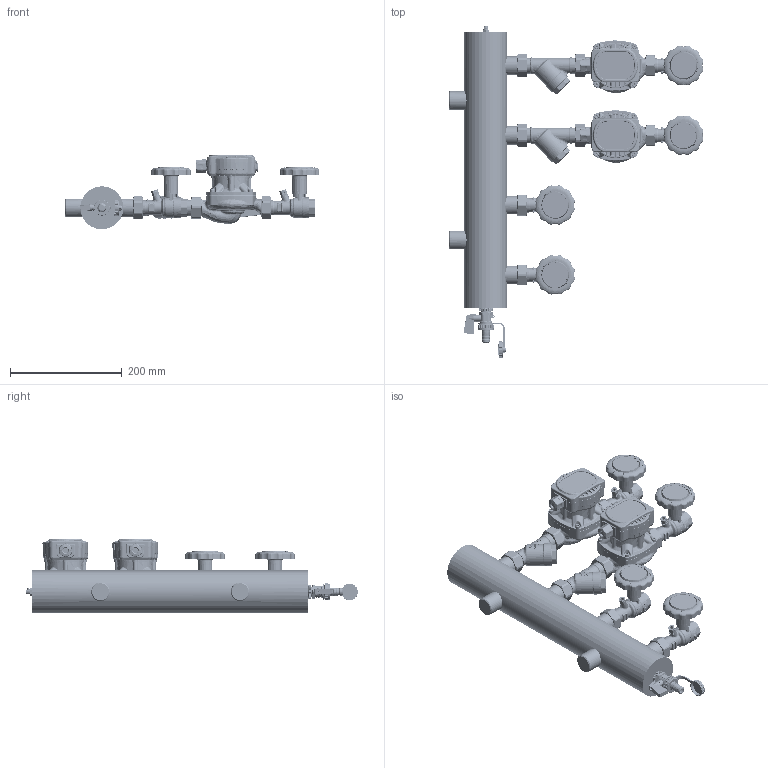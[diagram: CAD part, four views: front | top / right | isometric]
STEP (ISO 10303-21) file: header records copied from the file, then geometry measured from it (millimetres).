
FILE_DESCRIPTION (( 'STEP AP214' ), '1' );
FILE_NAME ('9099020.STEP', '2022-10-17T13:37:58', ( '' ), ( '' ), 'SwSTEP 2.0', 'SolidWorks 2022', '' );
FILE_SCHEMA (( 'AUTOMOTIVE_DESIGN' ));
Length unit declared in the file: millimetre
Products named in the file (42): Sfera-300-34-Lavorata-33208005; Sprzeglo; O-ring-2018-EPDM 70 N01C; GEWINDEDICHTRING G1_2; MUTTER G3_4; Corpo-1963-DN20-Lavorato-30105655; Grano-M4x6-52110003; GEH_USE; DECKEL G3_4; KFE_HAHN G1_2 PTFE; Anello-Elastico-1460-Ř28x2-53105460_2; Corpo-Filtro-Lavorato_2; 70405017-1963-1DFx34F-GIALLO-MAN-NERA_ASSIEME; Raccordo-840-34-Lavorato-31605312_Sabbiata; Dado-553-S-1-Lavorato-31505553; 90405017-1963-1DFx34F-GIALLO-MAN-NERA_ASSIEME; Dado-Fissaggio-Maniglia-1870-A-31505091; SPINDEL; 42407; Filtro-1410-114-53505410_2; 9099020; HALTELASCHE; pokretlo na termometr; APH-100-15-7-130_LFP; DECKEL0G304; Dado-1460- 1-Lavorato-31505460_2; Inserto-Maniglia-1870-52005071; Guarnizione-840-34-ptfe-52705005; O-ring-4125-PE32-52905023_2; 3438-Tappo Filtro Lavorato_2; odpowietrznik_reczny; 1961-S-Portasonda-_X2_0158_X0_6-Lavorato-30805032; maniglia-1870-1871_Nera; Assieme-Filtro1; FLACHDICHTUNG; 20405011-1963-34-GIALLO_ASSIEME; 10405027-1963-1DFx34F-Maniglia-Termometro-Nera_TERMOMETRO_1; Anello-Elastico-553-S-1-53105253; GRIFF; Asta-840-12-Unificata-30505300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
Assembly tree (53 placements, depth 6):
  9099020
    Assieme-Filtro1  x2
      Corpo-Filtro-Lavorato_2
      Anello-Elastico-1460-Ř28x2-53105460_2
      Dado-1460- 1-Lavorato-31505460_2
      3438-Tappo Filtro Lavorato_2
      Filtro-1410-114-53505410_2
      O-ring-4125-PE32-52905023_2
    pokretlo na termometr  x4
    10405027-1963-1DFx34F-Maniglia-Termometro-Nera_TERMOMETRO_1  x4
      70405017-1963-1DFx34F-GIALLO-MAN-NERA_ASSIEME
        90405017-1963-1DFx34F-GIALLO-MAN-NERA_ASSIEME
          20405011-1963-34-GIALLO_ASSIEME
            Corpo-1963-DN20-Lavorato-30105655
            Sfera-300-34-Lavorata-33208005
            Guarnizione-840-34-ptfe-52705005  x2
            Asta-840-12-Unificata-30505300
            O-ring-2018-EPDM 70 N01C  x2
            Raccordo-840-34-Lavorato-31605312_Sabbiata
          maniglia-1870-1871_Nera
          Dado-Fissaggio-Maniglia-1870-A-31505091
          Inserto-Maniglia-1870-52005071
          Grano-M4x6-52110003
          1961-S-Portasonda-_X2_0158_X0_6-Lavorato-30805032
        Anello-Elastico-553-S-1-53105253
        Dado-553-S-1-Lavorato-31505553
    odpowietrznik_reczny
    Sprzeglo
    42407
      KFE_HAHN G1_2 PTFE
        SPINDEL
        GEWINDEDICHTRING G1_2
        GEWINDERING G1_2
        GRIFF
        T_LLE
        MUTTER G3_4
        GEH_USE
        HALTELASCHE
        DECKEL G3_4
        DECKEL0G304
          FLACHDICHTUNG
    APH-100-15-7-130_LFP  x2
Bounding box: 455.78 x 594.76 x 133.58 mm (x, y, z)
Volume: 4178789.4 mm3; surface area: 684036.8 mm2
Topology: 114 solids, 126 shells, 16636 faces, 40614 edges, 24830 vertices
Faces by surface type: plane 5143, bspline 4099, cone 3441, cylinder 3285, torus 540, sphere 128
Entity records: 339432 total; most frequent: CARTESIAN_POINT 180036, ORIENTED_EDGE 30220, DIRECTION 22260, EDGE_CURVE 15110, VERTEX_POINT 9220, AXIS2_PLACEMENT_3D 8515, EDGE_LOOP 6582, ADVANCED_FACE 6245
